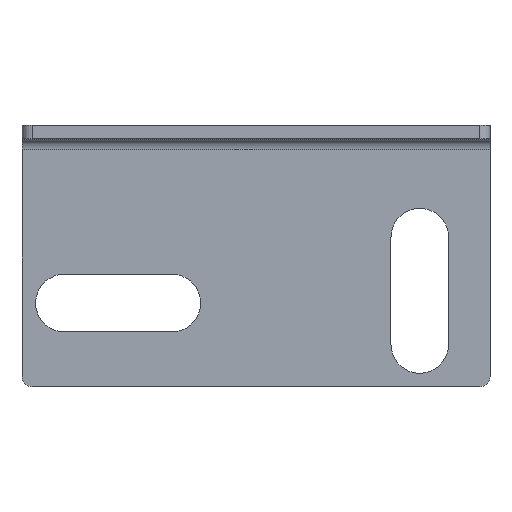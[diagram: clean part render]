
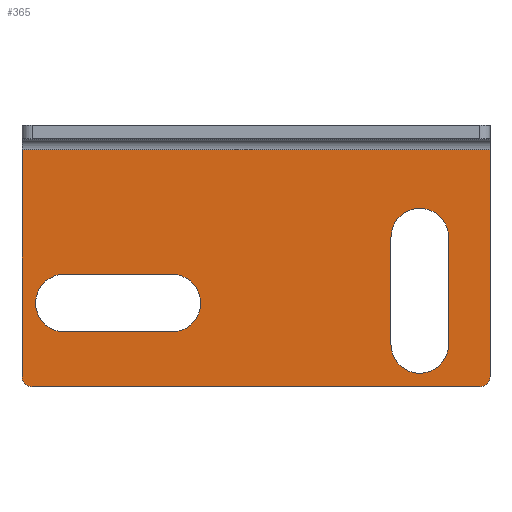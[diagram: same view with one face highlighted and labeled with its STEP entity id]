
A CAD part, top view. The second image highlights one B-rep face of the part: STEP entity #365.
In plain terms, the highlighted planar face has unit normal (0, 0, 1).
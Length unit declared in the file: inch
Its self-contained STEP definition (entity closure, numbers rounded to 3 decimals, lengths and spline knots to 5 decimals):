
#20 = ORIENTED_EDGE ( 'NONE', *, *, #910, .T. ) ;
#39 = CIRCLE ( 'NONE', #40, 0.0825 ) ;
#40 = AXIS2_PLACEMENT_3D ( 'NONE', #41, #42, #43 ) ;
#41 = CARTESIAN_POINT ( 'NONE',  ( 1.138, -4.3195, 3.291 ) ) ;
#42 = DIRECTION ( 'NONE',  ( 0., 0., -1. ) ) ;
#43 = DIRECTION ( 'NONE',  ( 0., 1., 0. ) ) ;
#55 = LINE ( 'NONE', #56, #57 ) ;
#56 = CARTESIAN_POINT ( 'NONE',  ( 0., -4.748, 3.291 ) ) ;
#57 = VECTOR ( 'NONE', #58, 39.37008 ) ;
#58 = DIRECTION ( 'NONE',  ( 1., 0., 0. ) ) ;
#84 = CARTESIAN_POINT ( 'NONE',  ( 0.03, -4.748, 3.291 ) ) ;
#85 = CARTESIAN_POINT ( 'NONE',  ( 0.1215, -4.4255, 3.291 ) ) ;
#88 = CARTESIAN_POINT ( 'NONE',  ( 1.309, -4.748, 3.291 ) ) ;
#112 = CARTESIAN_POINT ( 'NONE',  ( 1.0555, -4.3195, 3.291 ) ) ;
#118 = CIRCLE ( 'NONE', #119, 0.0825 ) ;
#119 = AXIS2_PLACEMENT_3D ( 'NONE', #120, #123, #124 ) ;
#120 = CARTESIAN_POINT ( 'NONE',  ( 0.4285, -4.508, 3.291 ) ) ;
#123 = DIRECTION ( 'NONE',  ( 0., 0., -1. ) ) ;
#124 = DIRECTION ( 'NONE',  ( 0., 1., 0. ) ) ;
#131 = CARTESIAN_POINT ( 'NONE',  ( 1.2205, -4.3195, 3.291 ) ) ;
#139 = VERTEX_POINT ( 'NONE', #1065 ) ;
#171 = ORIENTED_EDGE ( 'NONE', *, *, #688, .F. ) ;
#238 = VERTEX_POINT ( 'NONE', #1098 ) ;
#242 = ORIENTED_EDGE ( 'NONE', *, *, #258, .T. ) ;
#258 = EDGE_CURVE ( 'NONE', #1018, #238, #485, .T. ) ;
#259 = ORIENTED_EDGE ( 'NONE', *, *, #361, .T. ) ;
#269 = ORIENTED_EDGE ( 'NONE', *, *, #337, .T. ) ;
#279 = EDGE_LOOP ( 'NONE', ( #242, #667, #995, #953, #909 ) ) ;
#280 = VERTEX_POINT ( 'NONE', #722 ) ;
#286 = EDGE_CURVE ( 'NONE', #139, #312, #753, .T. ) ;
#288 = VERTEX_POINT ( 'NONE', #771 ) ;
#292 = EDGE_CURVE ( 'NONE', #316, #707, #812, .T. ) ;
#295 = ORIENTED_EDGE ( 'NONE', *, *, #1004, .T. ) ;
#312 = VERTEX_POINT ( 'NONE', #84 ) ;
#313 = ORIENTED_EDGE ( 'NONE', *, *, #984, .T. ) ;
#316 = VERTEX_POINT ( 'NONE', #85 ) ;
#317 = VERTEX_POINT ( 'NONE', #88 ) ;
#337 = EDGE_CURVE ( 'NONE', #317, #288, #387, .T. ) ;
#338 = EDGE_CURVE ( 'NONE', #1022, #1009, #392, .T. ) ;
#340 = EDGE_LOOP ( 'NONE', ( #295, #259, #20, #1129 ) ) ;
#359 = ORIENTED_EDGE ( 'NONE', *, *, #286, .T. ) ;
#361 = EDGE_CURVE ( 'NONE', #582, #280, #504, .T. ) ;
#365 = ADVANCED_FACE ( 'NONE', ( #558, #559, #560 ), #561, .T. ) ;
#387 = CIRCLE ( 'NONE', #388, 0.03 ) ;
#388 = AXIS2_PLACEMENT_3D ( 'NONE', #389, #390, #391 ) ;
#389 = CARTESIAN_POINT ( 'NONE',  ( 1.309, -4.718, 3.291 ) ) ;
#390 = DIRECTION ( 'NONE',  ( 0., 0., 1. ) ) ;
#391 = DIRECTION ( 'NONE',  ( 1., 0., 0. ) ) ;
#392 = CIRCLE ( 'NONE', #394, 0.0825 ) ;
#394 = AXIS2_PLACEMENT_3D ( 'NONE', #395, #396, #397 ) ;
#395 = CARTESIAN_POINT ( 'NONE',  ( 1.138, -4.3195, 3.291 ) ) ;
#396 = DIRECTION ( 'NONE',  ( 0., 0., -1. ) ) ;
#397 = DIRECTION ( 'NONE',  ( 0., 1., 0. ) ) ;
#409 = CARTESIAN_POINT ( 'NONE',  ( 1.2205, -4.6265, 3.291 ) ) ;
#423 = CARTESIAN_POINT ( 'NONE',  ( 0., -4.069, 3.291 ) ) ;
#432 = EDGE_CURVE ( 'NONE', #922, #139, #660, .T. ) ;
#451 = VERTEX_POINT ( 'NONE', #674 ) ;
#479 = CARTESIAN_POINT ( 'NONE',  ( 1.138, -4.237, 3.291 ) ) ;
#485 = CIRCLE ( 'NONE', #486, 0.0825 ) ;
#486 = AXIS2_PLACEMENT_3D ( 'NONE', #487, #488, #489 ) ;
#487 = CARTESIAN_POINT ( 'NONE',  ( 1.138, -4.6265, 3.291 ) ) ;
#488 = DIRECTION ( 'NONE',  ( 0., 0., -1. ) ) ;
#489 = DIRECTION ( 'NONE',  ( 0., 1., 0. ) ) ;
#504 = LINE ( 'NONE', #505, #506 ) ;
#505 = CARTESIAN_POINT ( 'NONE',  ( 0., -4.5905, 3.291 ) ) ;
#506 = VECTOR ( 'NONE', #507, 39.37008 ) ;
#507 = DIRECTION ( 'NONE',  ( -1., 0., 0. ) ) ;
#538 = LINE ( 'NONE', #539, #540 ) ;
#539 = CARTESIAN_POINT ( 'NONE',  ( 1.2205, -4.748, 3.291 ) ) ;
#540 = VECTOR ( 'NONE', #541, 39.37008 ) ;
#541 = DIRECTION ( 'NONE',  ( 0., -1., 0. ) ) ;
#542 = LINE ( 'NONE', #543, #544 ) ;
#543 = CARTESIAN_POINT ( 'NONE',  ( 1.0555, -4.748, 3.291 ) ) ;
#544 = VECTOR ( 'NONE', #545, 39.37008 ) ;
#545 = DIRECTION ( 'NONE',  ( 0., 1., 0. ) ) ;
#558 = FACE_BOUND ( 'NONE', #340, .T. ) ;
#559 = FACE_BOUND ( 'NONE', #279, .T. ) ;
#560 = FACE_OUTER_BOUND ( 'NONE', #888, .T. ) ;
#561 = PLANE ( 'NONE',  #562 ) ;
#562 = AXIS2_PLACEMENT_3D ( 'NONE', #563, #564, #565 ) ;
#563 = CARTESIAN_POINT ( 'NONE',  ( 0., -4.748, 3.291 ) ) ;
#564 = DIRECTION ( 'NONE',  ( 0., 0., 1. ) ) ;
#565 = DIRECTION ( 'NONE',  ( 1., 0., 0. ) ) ;
#582 = VERTEX_POINT ( 'NONE', #745 ) ;
#606 = LINE ( 'NONE', #607, #608 ) ;
#607 = CARTESIAN_POINT ( 'NONE',  ( 0., -4.069, 3.291 ) ) ;
#608 = VECTOR ( 'NONE', #609, 39.37008 ) ;
#609 = DIRECTION ( 'NONE',  ( 1., 0., 0. ) ) ;
#660 = LINE ( 'NONE', #661, #662 ) ;
#661 = CARTESIAN_POINT ( 'NONE',  ( 0., -4.0195, 3.291 ) ) ;
#662 = VECTOR ( 'NONE', #663, 39.37008 ) ;
#663 = DIRECTION ( 'NONE',  ( 0., -1., 0. ) ) ;
#667 = ORIENTED_EDGE ( 'NONE', *, *, #938, .T. ) ;
#674 = CARTESIAN_POINT ( 'NONE',  ( 1.339, -4.069, 3.291 ) ) ;
#688 = EDGE_CURVE ( 'NONE', #451, #288, #833, .T. ) ;
#707 = VERTEX_POINT ( 'NONE', #849 ) ;
#722 = CARTESIAN_POINT ( 'NONE',  ( 0.1215, -4.5905, 3.291 ) ) ;
#745 = CARTESIAN_POINT ( 'NONE',  ( 0.4285, -4.5905, 3.291 ) ) ;
#753 = CIRCLE ( 'NONE', #754, 0.03 ) ;
#754 = AXIS2_PLACEMENT_3D ( 'NONE', #755, #756, #757 ) ;
#755 = CARTESIAN_POINT ( 'NONE',  ( 0.03, -4.718, 3.291 ) ) ;
#756 = DIRECTION ( 'NONE',  ( 0., 0., 1. ) ) ;
#757 = DIRECTION ( 'NONE',  ( 1., 0., 0. ) ) ;
#771 = CARTESIAN_POINT ( 'NONE',  ( 1.339, -4.718, 3.291 ) ) ;
#812 = LINE ( 'NONE', #813, #814 ) ;
#813 = CARTESIAN_POINT ( 'NONE',  ( 0., -4.4255, 3.291 ) ) ;
#814 = VECTOR ( 'NONE', #815, 39.37008 ) ;
#815 = DIRECTION ( 'NONE',  ( 1., 0., 0. ) ) ;
#821 = EDGE_CURVE ( 'NONE', #1002, #1022, #39, .T. ) ;
#822 = ORIENTED_EDGE ( 'NONE', *, *, #432, .T. ) ;
#833 = LINE ( 'NONE', #834, #835 ) ;
#834 = CARTESIAN_POINT ( 'NONE',  ( 1.339, -4.0195, 3.291 ) ) ;
#835 = VECTOR ( 'NONE', #836, 39.37008 ) ;
#836 = DIRECTION ( 'NONE',  ( 0., -1., 0. ) ) ;
#849 = CARTESIAN_POINT ( 'NONE',  ( 0.4285, -4.4255, 3.291 ) ) ;
#888 = EDGE_LOOP ( 'NONE', ( #359, #313, #269, #171, #975, #822 ) ) ;
#909 = ORIENTED_EDGE ( 'NONE', *, *, #937, .T. ) ;
#910 = EDGE_CURVE ( 'NONE', #280, #316, #1105, .T. ) ;
#922 = VERTEX_POINT ( 'NONE', #423 ) ;
#937 = EDGE_CURVE ( 'NONE', #1009, #1018, #538, .T. ) ;
#938 = EDGE_CURVE ( 'NONE', #238, #1002, #542, .T. ) ;
#942 = EDGE_CURVE ( 'NONE', #922, #451, #606, .T. ) ;
#953 = ORIENTED_EDGE ( 'NONE', *, *, #338, .T. ) ;
#975 = ORIENTED_EDGE ( 'NONE', *, *, #942, .F. ) ;
#984 = EDGE_CURVE ( 'NONE', #312, #317, #55, .T. ) ;
#995 = ORIENTED_EDGE ( 'NONE', *, *, #821, .T. ) ;
#1002 = VERTEX_POINT ( 'NONE', #112 ) ;
#1004 = EDGE_CURVE ( 'NONE', #707, #582, #118, .T. ) ;
#1009 = VERTEX_POINT ( 'NONE', #131 ) ;
#1018 = VERTEX_POINT ( 'NONE', #409 ) ;
#1022 = VERTEX_POINT ( 'NONE', #479 ) ;
#1065 = CARTESIAN_POINT ( 'NONE',  ( 0., -4.718, 3.291 ) ) ;
#1098 = CARTESIAN_POINT ( 'NONE',  ( 1.0555, -4.6265, 3.291 ) ) ;
#1105 = CIRCLE ( 'NONE', #1106, 0.0825 ) ;
#1106 = AXIS2_PLACEMENT_3D ( 'NONE', #1107, #1108, #1109 ) ;
#1107 = CARTESIAN_POINT ( 'NONE',  ( 0.1215, -4.508, 3.291 ) ) ;
#1108 = DIRECTION ( 'NONE',  ( 0., 0., -1. ) ) ;
#1109 = DIRECTION ( 'NONE',  ( 0., 1., 0. ) ) ;
#1129 = ORIENTED_EDGE ( 'NONE', *, *, #292, .T. ) ;
